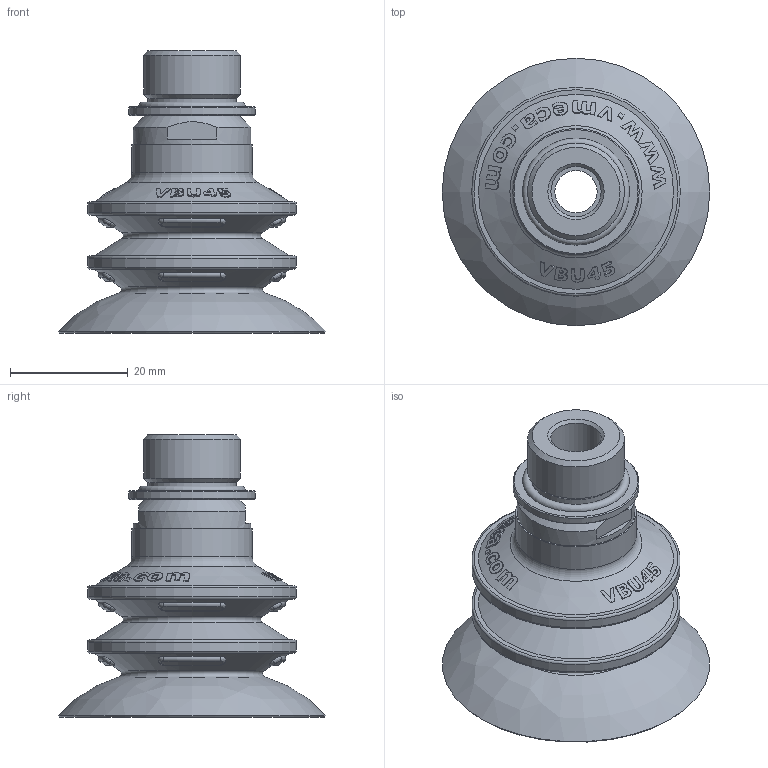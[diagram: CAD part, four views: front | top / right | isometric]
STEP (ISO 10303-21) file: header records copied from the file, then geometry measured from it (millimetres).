
FILE_DESCRIPTION( ( 'Unknown' ), '1' );
FILE_NAME( 'D:/New PAD/3欽 寨煎辦鍔/3D/VBU45/STP/VBU45.. - 38M.stp', 'Unknown', ( 'Unknown' ), ( 'Unknown' ), 'PSStep 10.0', 'Unknown', ' ' );
FILE_SCHEMA( ( 'automotive_design' ) );
Length unit declared in the file: millimetre
Products named in the file (1): 38M-30,40
Bounding box: 45.5 x 45.5 x 48 mm (x, y, z)
Volume: 12974.6 mm3; surface area: 11209.8 mm2
Topology: 1 solids, 1 shells, 349 faces, 890 edges, 583 vertices
Faces by surface type: bspline 207, cone 50, torus 38, plane 32, cylinder 22
Full cylindrical faces by diameter (mm): 7.2 x1, 8.566 x3, 11 x1, 15 x1, 16.5 x1, 18.979 x2, 20 x1, 20.5 x1, 21.5 x1, 35.5 x2
Entity records: 24226 total; most frequent: CARTESIAN_POINT 14909, ORIENTED_EDGE 1654, EDGE_CURVE 827, DIRECTION 712, B_SPLINE_CURVE_WITH_KNOTS 591, VERTEX_POINT 572, EDGE_LOOP 443, FACE_OUTER_BOUND 381
